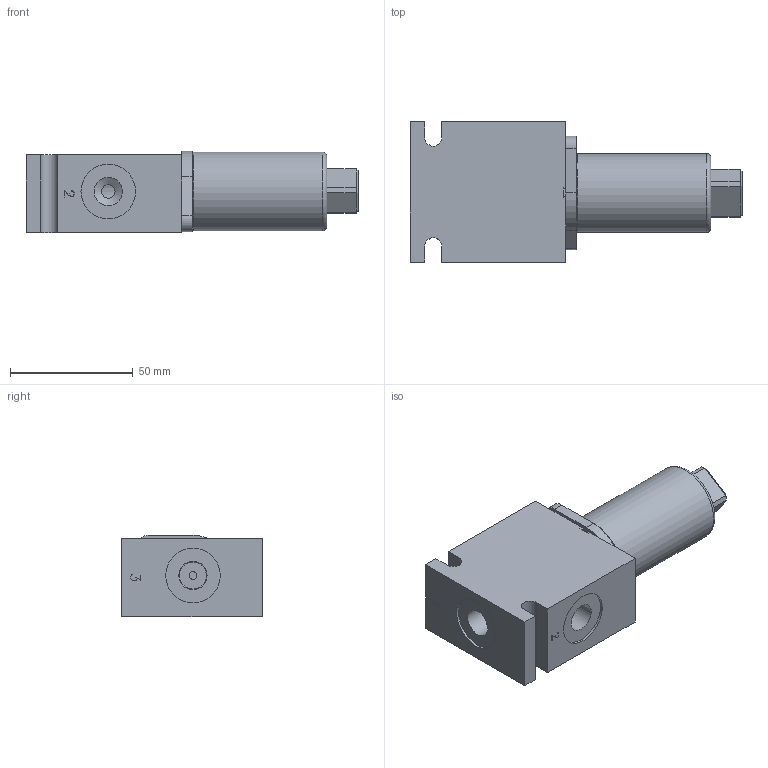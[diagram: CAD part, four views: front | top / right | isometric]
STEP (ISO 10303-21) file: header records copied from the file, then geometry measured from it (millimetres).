
FILE_DESCRIPTION( ( 'Unknown' ), '1' );
FILE_NAME( 'G:/Graphic Design/Graphic Design 2/Data Sheets/PROPORTIONAL CONTROLS/2_STEP/IPDAR00-A3.stp', 'Unknown', ( 'Unknown' ), ( 'Unknown' ), 'PSStep 17.0.49', 'Unknown', ' ' );
FILE_SCHEMA( ( 'AUTOMOTIVE_DESIGN { 1 0 10303 214 1 1 1 1 }' ) );
Length unit declared in the file: millimetre
Products named in the file (9): IPDAR00; IPDAR00-3D Full1; IPDAR00-3D Full2; IPDAR00-3D Full3; IPDAR00-3D Full4; IPDAR00-3D Full5; IPDAR00-3D Full6; Assem1; B-DPPA3
Assembly tree (8 placements, depth 3):
  Assem1
    B-DPPA3
    IPDAR00
      IPDAR00-3D Full1
      IPDAR00-3D Full2
      IPDAR00-3D Full3
      IPDAR00-3D Full4
      IPDAR00-3D Full5
      IPDAR00-3D Full6
Bounding box: 135.2 x 57.2 x 33.11 mm (x, y, z)
Volume: 148285.5 mm3; surface area: 32807.3 mm2
Topology: 7 solids, 7 shells, 210 faces, 511 edges, 335 vertices
Faces by surface type: plane 148, cylinder 49, cone 9, torus 4
Full cylindrical faces by diameter (mm): 0.2 x3, 2.388 x8, 3.175 x1, 4.369 x2, 5.5 x1, 10.414 x1, 10.518 x1, 11 x2, 11.5 x6, 12.065 x1, 12.446 x1, 12.954 x1, 13.058 x1, 14.326 x1, 14.986 x2, 15.926 x2, 16.205 x1, 17.33 x1, 22.22 x3, 30.748 x1, 32.055 x1
Entity records: 7704 total; most frequent: CARTESIAN_POINT 1510, ORIENTED_EDGE 860, DIRECTION 810, EDGE_CURVE 430, VERTEX_POINT 313, AXIS2_PLACEMENT_3D 307, EDGE_LOOP 296, FACE_OUTER_BOUND 249
